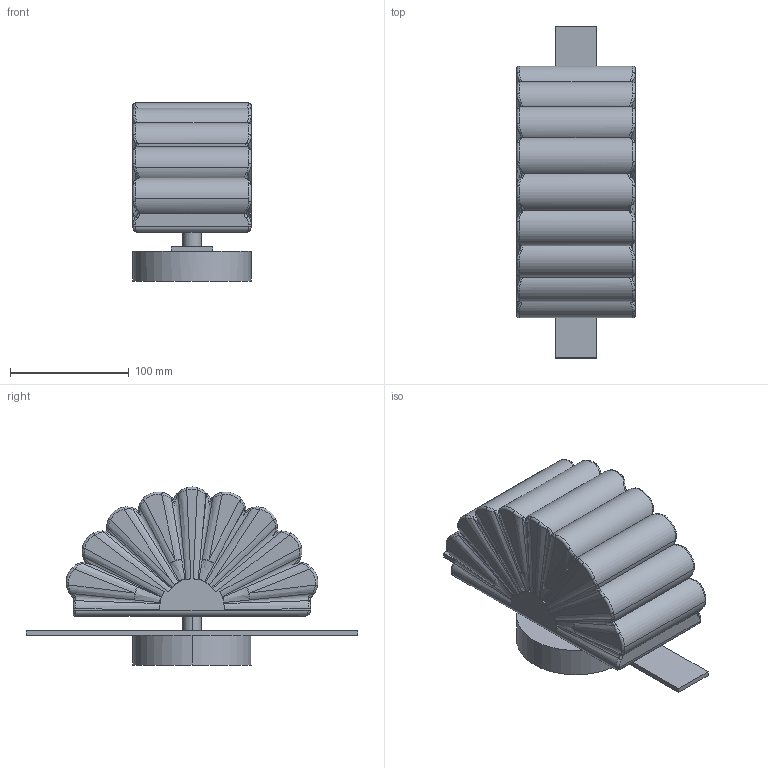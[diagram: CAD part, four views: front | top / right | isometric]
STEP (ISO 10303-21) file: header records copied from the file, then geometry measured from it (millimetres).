
FILE_DESCRIPTION (( 'STEP AP214' ), '1' );
FILE_NAME ('GINA_A1334.STEP', '2024-09-18T07:45:28', ( '' ), ( '' ), 'SwSTEP 2.0', 'SolidWorks 2018', '' );
FILE_SCHEMA (( 'AUTOMOTIVE_DESIGN' ));
Length unit declared in the file: millimetre
Products named in the file (1): GINA_A1334
Bounding box: 100 x 280 x 150.17 mm (x, y, z)
Volume: 1997405.7 mm3; surface area: 134324.9 mm2
Topology: 2 solids, 2 shells, 264 faces, 661 edges, 401 vertices
Faces by surface type: bspline 132, plane 49, cone 28, cylinder 26, torus 22, sphere 7
Entity records: 16181 total; most frequent: CARTESIAN_POINT 8198, ORIENTED_EDGE 1318, DIRECTION 691, EDGE_CURVE 659, VERTEX_POINT 401, B_SPLINE_CURVE_WITH_KNOTS 390, AXIS2_PLACEMENT_3D 304, UNCERTAINTY_MEASURE_WITH_UNIT 268
